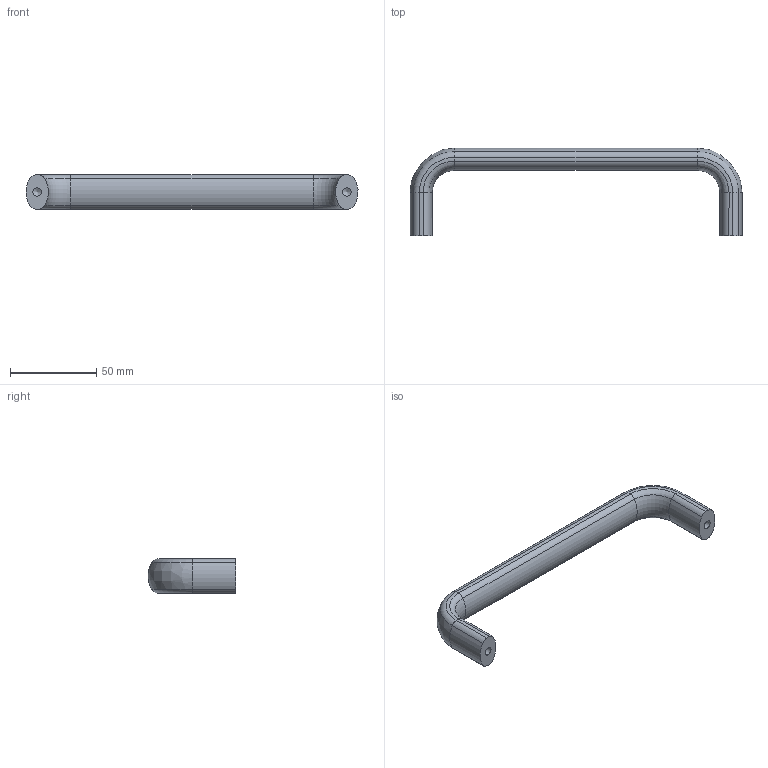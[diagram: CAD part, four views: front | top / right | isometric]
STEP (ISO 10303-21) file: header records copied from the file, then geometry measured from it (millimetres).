
FILE_DESCRIPTION( ( 'STEP AP203' ), '1' );
FILE_NAME( 'C:/Temp/Ganter_Step_05_03_2020/data/1_2/gn_565/Cabinet ''''U'''' handle GN 565-20-180-RS.stp', '2020-03-05T10:08:48', ( 'License CC BY-ND 4.0' ), ( 'CADENAS' ), ' ', 'PARTsolutions', ' ' );
FILE_SCHEMA( ( 'CONFIG_CONTROL_DESIGN' ) );
Length unit declared in the file: millimetre
Products named in the file (1): _Cabinet ''U'' handle GN 565-20-180-RS
Bounding box: 192.91 x 50.97 x 19.99 mm (x, y, z)
Volume: 52458.9 mm3; surface area: 14243.2 mm2
Topology: 1 solids, 1 shells, 53 faces, 128 edges, 77 vertices
Faces by surface type: cylinder 26, torus 14, plane 9, bspline 2, cone 2
Full cylindrical faces by diameter (mm): 4.917 x2
Entity records: 1640 total; most frequent: CARTESIAN_POINT 337, DIRECTION 304, ORIENTED_EDGE 244, AXIS2_PLACEMENT_3D 140, EDGE_CURVE 122, CIRCLE 88, VERTEX_POINT 77, EDGE_LOOP 57
